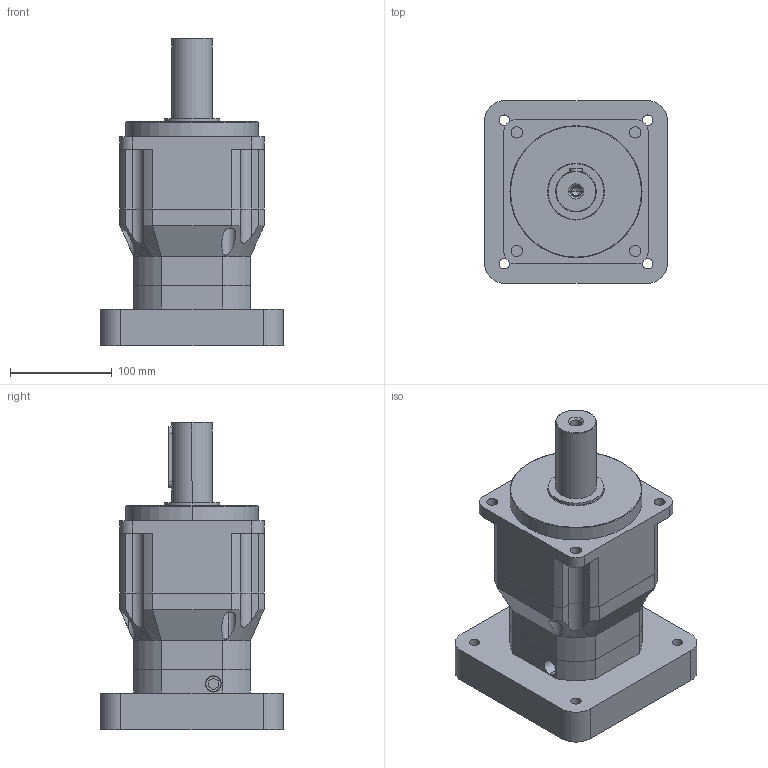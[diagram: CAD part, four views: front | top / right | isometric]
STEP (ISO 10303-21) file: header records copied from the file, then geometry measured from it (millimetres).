
FILE_DESCRIPTION (( 'STEP AP214' ), '1' );
FILE_NAME ('PAB142-L2-S2-P1 35-114.3-200-M12.STEP', '2019-10-29T08:21:26', ( '微软用户' ), ( '微软中国' ), 'SwSTEP 2.0', 'SolidWorks 2014', '' );
FILE_SCHEMA (( 'AUTOMOTIVE_DESIGN' ));
Length unit declared in the file: millimetre
Products named in the file (2): PAB142-L2-S2-P1 35-114.3-200-M12
Bounding box: 180 x 180 x 302.5 mm (x, y, z)
Volume: 3789269.2 mm3; surface area: 345190.5 mm2
Topology: 5 solids, 5 shells, 924 faces, 2615 edges, 1734 vertices
Faces by surface type: plane 676, cylinder 158, bspline 62, torus 16, cone 12
Entity records: 40232 total; most frequent: CARTESIAN_POINT 7800, ORIENTED_EDGE 5226, DIRECTION 4482, EDGE_CURVE 2613, VECTOR 2048, LINE 2048, VERTEX_POINT 1734, AXIS2_PLACEMENT_3D 1217
